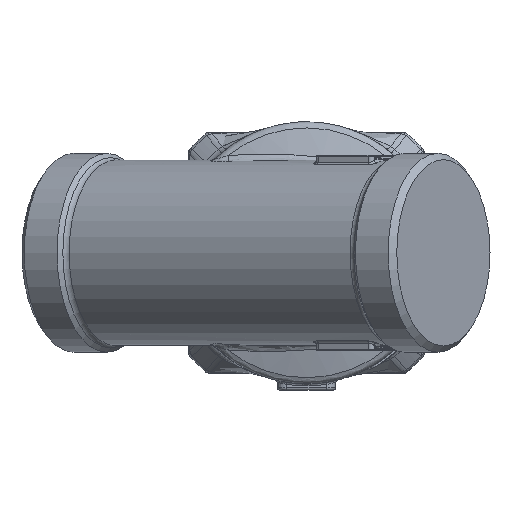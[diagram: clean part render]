
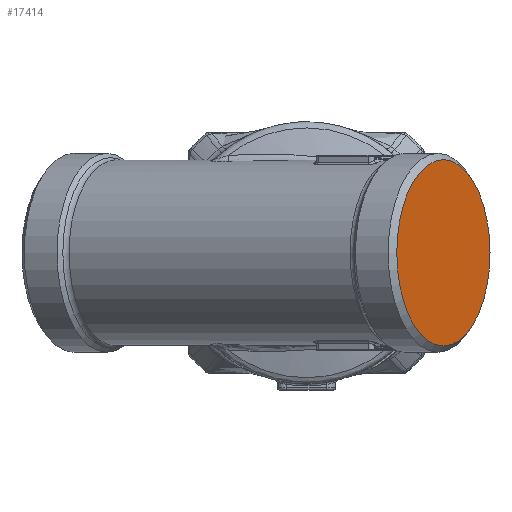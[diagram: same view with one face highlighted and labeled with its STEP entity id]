
A CAD part, front view. The second image highlights one B-rep face of the part: STEP entity #17414.
In plain terms, the highlighted planar face has unit normal (0.866, -0.5, 0).
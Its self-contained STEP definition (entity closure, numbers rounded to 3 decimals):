
#975=PLANE($,#18476);
#1681=FACE_OUTER_BOUND($,#2777,.T.);
#2777=EDGE_LOOP($,(#14088));
#4530=CIRCLE($,#18477,22.4);
#7670=VERTEX_POINT($,#44827);
#9853=EDGE_CURVE($,#7670,#7670,#4530,.T.);
#14088=ORIENTED_EDGE($,*,*,#9853,.F.);
#17414=ADVANCED_FACE($,(#1681),#975,.F.);
#18476=AXIS2_PLACEMENT_3D($,#44826,#21068,#21069);
#18477=AXIS2_PLACEMENT_3D($,#44828,#21070,#21071);
#21068=DIRECTION('center_axis',(-0.866,0.5,0.));
#21069=DIRECTION('ref_axis',(0.,0.,
1.));
#21070=DIRECTION('center_axis',(-0.866,0.5,0.));
#21071=DIRECTION('ref_axis',(0.,0.,
1.));
#44826=CARTESIAN_POINT('Origin',(65.273,-46.743,31.61));
#44827=CARTESIAN_POINT('',(32.909,-102.8,-22.4));
#44828=CARTESIAN_POINT('Origin',(32.909,-102.8,0.));
